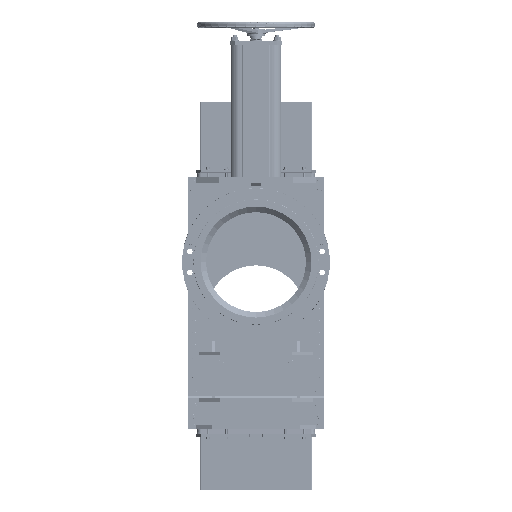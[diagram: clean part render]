
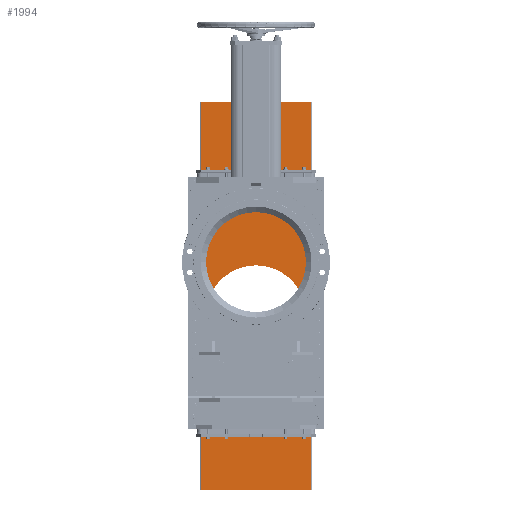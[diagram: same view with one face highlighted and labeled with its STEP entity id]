
A CAD part, left-side view. The second image highlights one B-rep face of the part: STEP entity #1994.
In plain terms, the highlighted planar face has unit normal (-1, 0, 0).
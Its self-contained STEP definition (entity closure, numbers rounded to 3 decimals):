
#1994=ADVANCED_FACE('',(#7691,#7692,#7693,#7694,#7695,#7696,#7697),#7698,.F.);
#7691=FACE_BOUND('',#16797,.T.);
#7692=FACE_BOUND('',#16798,.T.);
#7693=FACE_BOUND('',#16799,.T.);
#7694=FACE_OUTER_BOUND('',#16800,.T.);
#7695=FACE_BOUND('',#16801,.T.);
#7696=FACE_BOUND('',#16802,.T.);
#7697=FACE_BOUND('',#16803,.T.);
#7698=PLANE('',#16804);
#16797=EDGE_LOOP('',(#33272,#33273));
#16798=EDGE_LOOP('',(#33274,#33275));
#16799=EDGE_LOOP('',(#33276,#33277));
#16800=EDGE_LOOP('',(#33278,#33279,#33280,#33281));
#16801=EDGE_LOOP('',(#33282,#33283));
#16802=EDGE_LOOP('',(#33284,#33285));
#16803=EDGE_LOOP('',(#33286,#33287));
#16804=AXIS2_PLACEMENT_3D('',#33288,#33289,#33290);
#33272=ORIENTED_EDGE('',*,*,#58222,.F.);
#33273=ORIENTED_EDGE('',*,*,#60174,.F.);
#33274=ORIENTED_EDGE('',*,*,#58555,.F.);
#33275=ORIENTED_EDGE('',*,*,#60175,.F.);
#33276=ORIENTED_EDGE('',*,*,#57150,.F.);
#33277=ORIENTED_EDGE('',*,*,#60176,.F.);
#33278=ORIENTED_EDGE('',*,*,#60177,.T.);
#33279=ORIENTED_EDGE('',*,*,#60178,.F.);
#33280=ORIENTED_EDGE('',*,*,#60179,.F.);
#33281=ORIENTED_EDGE('',*,*,#60180,.T.);
#33282=ORIENTED_EDGE('',*,*,#59998,.F.);
#33283=ORIENTED_EDGE('',*,*,#60181,.F.);
#33284=ORIENTED_EDGE('',*,*,#58061,.F.);
#33285=ORIENTED_EDGE('',*,*,#60182,.F.);
#33286=ORIENTED_EDGE('',*,*,#57274,.F.);
#33287=ORIENTED_EDGE('',*,*,#60183,.F.);
#33288=CARTESIAN_POINT('',(-9.,-299.359,-1232.5));
#33289=DIRECTION('',(1.,0.,0.));
#33290=DIRECTION('',(0.,-1.,0.));
#57150=EDGE_CURVE('',#68617,#68613,#68619,.T.);
#57274=EDGE_CURVE('',#68864,#68860,#68866,.T.);
#58061=EDGE_CURVE('',#70423,#70419,#70425,.T.);
#58222=EDGE_CURVE('',#70740,#70736,#70742,.T.);
#58555=EDGE_CURVE('',#71398,#71394,#71400,.T.);
#59998=EDGE_CURVE('',#74218,#74214,#74220,.T.);
#60174=EDGE_CURVE('',#70736,#70740,#74563,.T.);
#60175=EDGE_CURVE('',#71394,#71398,#74564,.T.);
#60176=EDGE_CURVE('',#68613,#68617,#74565,.T.);
#60177=EDGE_CURVE('',#74566,#74567,#74568,.T.);
#60178=EDGE_CURVE('',#74569,#74567,#74570,.T.);
#60179=EDGE_CURVE('',#74571,#74569,#74572,.T.);
#60180=EDGE_CURVE('',#74571,#74566,#74573,.T.);
#60181=EDGE_CURVE('',#74214,#74218,#74574,.T.);
#60182=EDGE_CURVE('',#70419,#70423,#74575,.T.);
#60183=EDGE_CURVE('',#68860,#68864,#74576,.T.);
#68613=VERTEX_POINT('',#87459);
#68617=VERTEX_POINT('',#87464);
#68619=CIRCLE('',#87467,270.);
#68860=VERTEX_POINT('',#87780);
#68864=VERTEX_POINT('',#87785);
#68866=CIRCLE('',#87788,15.845);
#70419=VERTEX_POINT('',#89976);
#70423=VERTEX_POINT('',#89981);
#70425=CIRCLE('',#89984,15.845);
#70736=VERTEX_POINT('',#90417);
#70740=VERTEX_POINT('',#90422);
#70742=CIRCLE('',#90425,15.845);
#71394=VERTEX_POINT('',#91363);
#71398=VERTEX_POINT('',#91368);
#71400=CIRCLE('',#91371,15.845);
#74214=VERTEX_POINT('',#95640);
#74218=VERTEX_POINT('',#95645);
#74220=CIRCLE('',#95648,20.);
#74563=CIRCLE('',#96180,15.845);
#74564=CIRCLE('',#96181,15.845);
#74565=CIRCLE('',#96182,270.);
#74566=VERTEX_POINT('',#96183);
#74567=VERTEX_POINT('',#96184);
#74568=LINE('',#96185,#96186);
#74569=VERTEX_POINT('',#96187);
#74570=LINE('',#96188,#96189);
#74571=VERTEX_POINT('',#96190);
#74572=LINE('',#96191,#96192);
#74573=LINE('',#96193,#96194);
#74574=CIRCLE('',#96195,20.);
#74575=CIRCLE('',#96196,15.845);
#74576=CIRCLE('',#96197,15.845);
#87459=CARTESIAN_POINT('',(-9.,270.,-287.5));
#87464=CARTESIAN_POINT('',(-9.,-270.,-287.5));
#87467=AXIS2_PLACEMENT_3D('',#116020,#116021,#116022);
#87780=CARTESIAN_POINT('',(-9.,47.655,812.5));
#87785=CARTESIAN_POINT('',(-9.,79.345,812.5));
#87788=AXIS2_PLACEMENT_3D('',#116271,#116272,#116273);
#89976=CARTESIAN_POINT('',(-9.,47.655,847.5));
#89981=CARTESIAN_POINT('',(-9.,79.345,847.5));
#89984=AXIS2_PLACEMENT_3D('',#117774,#117775,#117776);
#90417=CARTESIAN_POINT('',(-9.,-79.345,812.5));
#90422=CARTESIAN_POINT('',(-9.,-47.655,812.5));
#90425=AXIS2_PLACEMENT_3D('',#118069,#118070,#118071);
#91363=CARTESIAN_POINT('',(-9.,-79.345,847.5));
#91368=CARTESIAN_POINT('',(-9.,-47.655,847.5));
#91371=AXIS2_PLACEMENT_3D('',#118696,#118697,#118698);
#95640=CARTESIAN_POINT('',(-9.,20.,832.5));
#95645=CARTESIAN_POINT('',(-9.,-20.,832.5));
#95648=AXIS2_PLACEMENT_3D('',#121306,#121307,#121308);
#96180=AXIS2_PLACEMENT_3D('',#121628,#121629,#121630);
#96181=AXIS2_PLACEMENT_3D('',#121631,#121632,#121633);
#96182=AXIS2_PLACEMENT_3D('',#121634,#121635,#121636);
#96183=CARTESIAN_POINT('',(-9.,-299.359,867.5));
#96184=CARTESIAN_POINT('',(-9.,299.359,867.5));
#96185=CARTESIAN_POINT('',(-9.,-299.359,867.5));
#96186=VECTOR('',#121637,1000.);
#96187=CARTESIAN_POINT('',(-9.,299.359,-1232.5));
#96188=CARTESIAN_POINT('',(-9.,299.359,-1232.5));
#96189=VECTOR('',#121638,1000.);
#96190=CARTESIAN_POINT('',(-9.,-299.359,-1232.5));
#96191=CARTESIAN_POINT('',(-9.,-299.359,-1232.5));
#96192=VECTOR('',#121639,1000.);
#96193=CARTESIAN_POINT('',(-9.,-299.359,-1232.5));
#96194=VECTOR('',#121640,1000.);
#96195=AXIS2_PLACEMENT_3D('',#121641,#121642,#121643);
#96196=AXIS2_PLACEMENT_3D('',#121644,#121645,#121646);
#96197=AXIS2_PLACEMENT_3D('',#121647,#121648,#121649);
#116020=CARTESIAN_POINT('',(-9.,0.,-287.5));
#116021=DIRECTION('',(-1.,0.,0.));
#116022=DIRECTION('',(0.,-1.,0.));
#116271=CARTESIAN_POINT('',(-9.,63.5,812.5));
#116272=DIRECTION('',(-1.,0.,0.));
#116273=DIRECTION('',(0.,1.,0.));
#117774=CARTESIAN_POINT('',(-9.,63.5,847.5));
#117775=DIRECTION('',(-1.,0.,0.));
#117776=DIRECTION('',(0.,1.,0.));
#118069=CARTESIAN_POINT('',(-9.,-63.5,812.5));
#118070=DIRECTION('',(-1.,0.,0.));
#118071=DIRECTION('',(0.,1.,0.));
#118696=CARTESIAN_POINT('',(-9.,-63.5,847.5));
#118697=DIRECTION('',(-1.,0.,0.));
#118698=DIRECTION('',(0.,1.,0.));
#121306=CARTESIAN_POINT('',(-9.,0.,832.5));
#121307=DIRECTION('',(-1.,0.,0.));
#121308=DIRECTION('',(0.,-1.,0.));
#121628=CARTESIAN_POINT('',(-9.,-63.5,812.5));
#121629=DIRECTION('',(-1.,0.,0.));
#121630=DIRECTION('',(0.,1.,0.));
#121631=CARTESIAN_POINT('',(-9.,-63.5,847.5));
#121632=DIRECTION('',(-1.,0.,0.));
#121633=DIRECTION('',(0.,1.,0.));
#121634=CARTESIAN_POINT('',(-9.,0.,-287.5));
#121635=DIRECTION('',(-1.,0.,0.));
#121636=DIRECTION('',(0.,-1.,0.));
#121637=DIRECTION('',(0.,1.,0.));
#121638=DIRECTION('',(0.,0.,1.));
#121639=DIRECTION('',(0.,1.,0.));
#121640=DIRECTION('',(0.,0.,1.));
#121641=CARTESIAN_POINT('',(-9.,0.,832.5));
#121642=DIRECTION('',(-1.,0.,0.));
#121643=DIRECTION('',(0.,-1.,0.));
#121644=CARTESIAN_POINT('',(-9.,63.5,847.5));
#121645=DIRECTION('',(-1.,0.,0.));
#121646=DIRECTION('',(0.,1.,0.));
#121647=CARTESIAN_POINT('',(-9.,63.5,812.5));
#121648=DIRECTION('',(-1.,0.,0.));
#121649=DIRECTION('',(0.,1.,0.));
